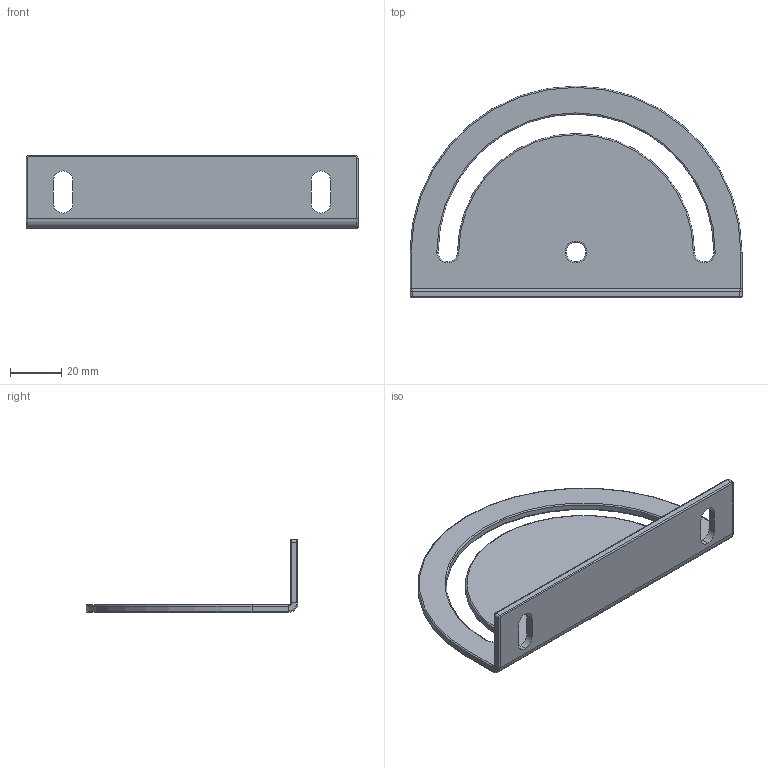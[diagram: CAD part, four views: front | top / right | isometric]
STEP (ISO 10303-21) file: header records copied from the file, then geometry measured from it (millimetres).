
FILE_DESCRIPTION (( 'STEP AP203' ), '1' );
FILE_NAME ('3030褒僅嘐隅啣.STEP', '2015-07-27T02:04:27', ( '' ), ( '' ), 'SwSTEP 2.0', 'SolidWorks 2013', '' );
FILE_SCHEMA (( 'CONFIG_CONTROL_DESIGN' ));
Length unit declared in the file: millimetre
Products named in the file (1): 3030褒僅嘐隅啣
Bounding box: 130 x 83 x 28.5 mm (x, y, z)
Volume: 31875.7 mm3; surface area: 23565.6 mm2
Topology: 1 solids, 1 shells, 64 faces, 146 edges, 84 vertices
Faces by surface type: cylinder 27, torus 22, plane 15
Entity records: 1891 total; most frequent: DIRECTION 364, CARTESIAN_POINT 295, ORIENTED_EDGE 292, AXIS2_PLACEMENT_3D 153, EDGE_CURVE 146, CIRCLE 88, VERTEX_POINT 84, EDGE_LOOP 72
